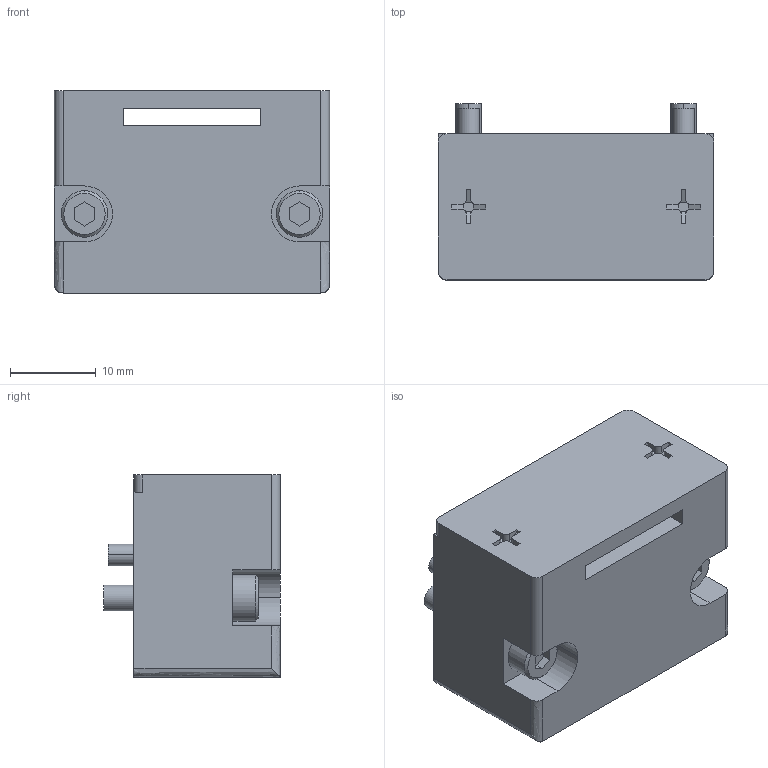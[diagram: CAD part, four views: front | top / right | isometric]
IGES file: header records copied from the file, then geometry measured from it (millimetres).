
Start section: 3D InterOp IGES (v. 2022 1.0.0), Spatial Corp. Copyright (c) 1999-2020.
Global section: file name: KHB-7~25RS-D38_ver1.igs; native system: Spatial Corp.; preprocessor: 3D InterOp GENERIC/IGES 3.0; author: Noname; organization: Noname; date: 20260424.115851; units: millimetre
Bounding box: 32 x 20.5 x 23.5 mm (x, y, z)
Surface area: 5066.8 mm2 (no closed solid volume)
Topology: 0 solids, 0 shells, 245 faces, 1122 edges, 1122 vertices
Faces by surface type: extrusion 134, revolution 111
